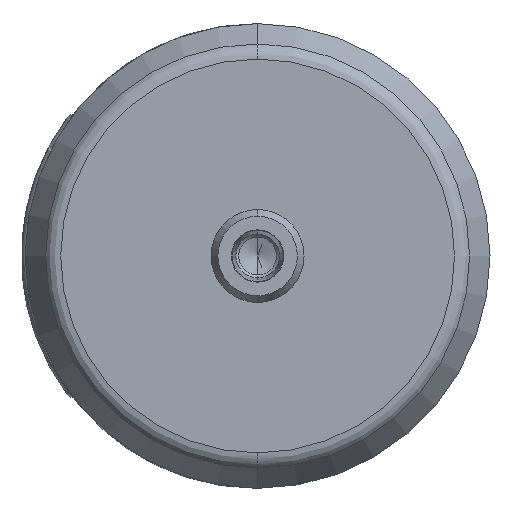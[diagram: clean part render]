
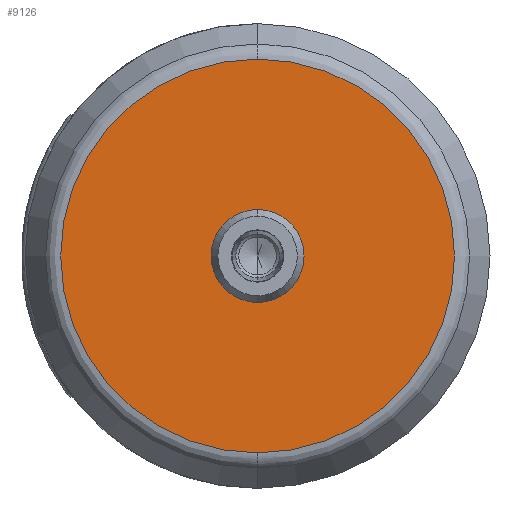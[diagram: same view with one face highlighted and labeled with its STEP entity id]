
A CAD part, front view. The second image highlights one B-rep face of the part: STEP entity #9126.
In plain terms, the highlighted planar face has unit normal (0, -1, 0).
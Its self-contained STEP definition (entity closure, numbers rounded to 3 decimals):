
#2 = CIRCLE ( 'NONE', #6312, 33.892 ) ;
#43 = ORIENTED_EDGE ( 'NONE', *, *, #2086, .T. ) ;
#299 = EDGE_LOOP ( 'NONE', ( #7526, #507 ) ) ;
#507 = ORIENTED_EDGE ( 'NONE', *, *, #3425, .F. ) ;
#521 = DIRECTION ( 'NONE',  ( 0., 0., 1. ) ) ;
#529 = AXIS2_PLACEMENT_3D ( 'NONE', #2443, #6687, #4198 ) ;
#554 = ORIENTED_EDGE ( 'NONE', *, *, #10020, .T. ) ;
#639 = CIRCLE ( 'NONE', #11007, 33.892 ) ;
#718 = AXIS2_PLACEMENT_3D ( 'NONE', #6608, #4270, #5110 ) ;
#972 = CIRCLE ( 'NONE', #529, 7.75 ) ;
#983 = DIRECTION ( 'NONE',  ( 0., 1., 0. ) ) ;
#1016 = CARTESIAN_POINT ( 'NONE',  ( 0., 0., 0. ) ) ;
#1045 = FACE_OUTER_BOUND ( 'NONE', #299, .T. ) ;
#1342 = CARTESIAN_POINT ( 'NONE',  ( 0., 0., 7.75 ) ) ;
#2086 = EDGE_CURVE ( 'NONE', #9837, #6975, #972, .T. ) ;
#2443 = CARTESIAN_POINT ( 'NONE',  ( 0., 0., 0. ) ) ;
#2615 = CARTESIAN_POINT ( 'NONE',  ( 0., 0., -7.75 ) ) ;
#2686 = CARTESIAN_POINT ( 'NONE',  ( 0., 0., 0. ) ) ;
#3425 = EDGE_CURVE ( 'NONE', #8635, #8097, #2, .T. ) ;
#4049 = PLANE ( 'NONE',  #718 ) ;
#4102 = AXIS2_PLACEMENT_3D ( 'NONE', #2686, #10467, #9665 ) ;
#4198 = DIRECTION ( 'NONE',  ( 0., 0., 1. ) ) ;
#4270 = DIRECTION ( 'NONE',  ( 0., -1., 0. ) ) ;
#4814 = CIRCLE ( 'NONE', #4102, 7.75 ) ;
#4992 = CARTESIAN_POINT ( 'NONE',  ( 0., 0., 33.892 ) ) ;
#5110 = DIRECTION ( 'NONE',  ( 0., 0., -1. ) ) ;
#6312 = AXIS2_PLACEMENT_3D ( 'NONE', #6429, #8180, #521 ) ;
#6429 = CARTESIAN_POINT ( 'NONE',  ( 0., 0., 0. ) ) ;
#6608 = CARTESIAN_POINT ( 'NONE',  ( 0., 0., 0. ) ) ;
#6687 = DIRECTION ( 'NONE',  ( 0., 1., 0. ) ) ;
#6975 = VERTEX_POINT ( 'NONE', #1342 ) ;
#7526 = ORIENTED_EDGE ( 'NONE', *, *, #8312, .F. ) ;
#8097 = VERTEX_POINT ( 'NONE', #4992 ) ;
#8144 = FACE_BOUND ( 'NONE', #10601, .T. ) ;
#8180 = DIRECTION ( 'NONE',  ( 0., 1., 0. ) ) ;
#8312 = EDGE_CURVE ( 'NONE', #8097, #8635, #639, .T. ) ;
#8635 = VERTEX_POINT ( 'NONE', #9265 ) ;
#9126 = ADVANCED_FACE ( 'NONE', ( #8144, #1045 ), #4049, .T. ) ;
#9265 = CARTESIAN_POINT ( 'NONE',  ( 0., 0., -33.892 ) ) ;
#9665 = DIRECTION ( 'NONE',  ( 0., 0., 1. ) ) ;
#9837 = VERTEX_POINT ( 'NONE', #2615 ) ;
#10020 = EDGE_CURVE ( 'NONE', #6975, #9837, #4814, .T. ) ;
#10467 = DIRECTION ( 'NONE',  ( 0., 1., 0. ) ) ;
#10471 = DIRECTION ( 'NONE',  ( 0., 0., 1. ) ) ;
#10601 = EDGE_LOOP ( 'NONE', ( #554, #43 ) ) ;
#11007 = AXIS2_PLACEMENT_3D ( 'NONE', #1016, #983, #10471 ) ;
